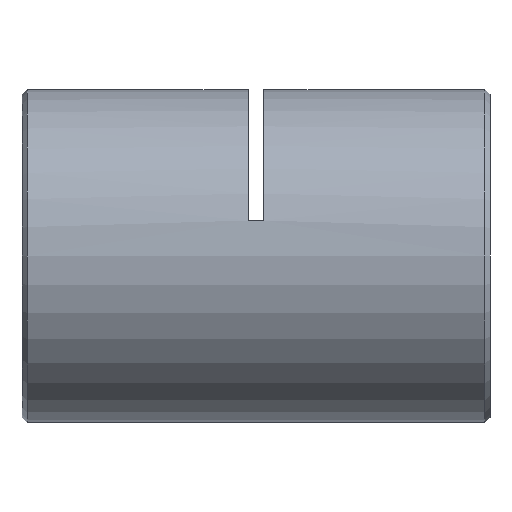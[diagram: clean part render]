
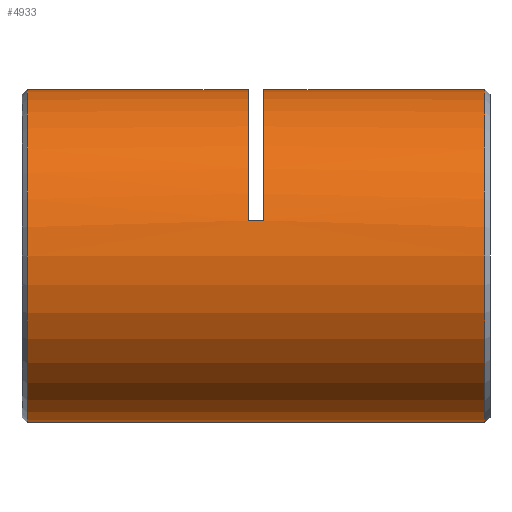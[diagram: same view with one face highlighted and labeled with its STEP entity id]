
A CAD part, left-side view. The second image highlights one B-rep face of the part: STEP entity #4933.
In plain terms, the highlighted cylindrical face has radius 16 mm (diameter 32 mm), a partial arc.
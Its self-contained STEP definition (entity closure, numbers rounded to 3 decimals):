
#7 = ORIENTED_EDGE ( 'NONE', *, *, #5184, .T. ) ;
#74 = CIRCLE ( 'NONE', #5999, 16. ) ;
#173 = ORIENTED_EDGE ( 'NONE', *, *, #1044, .T. ) ;
#270 = DIRECTION ( 'NONE',  ( 0., 1., 0. ) ) ;
#486 = CARTESIAN_POINT ( 'NONE',  ( 0., 44.75, 16. ) ) ;
#668 = DIRECTION ( 'NONE',  ( 0., 1., 0. ) ) ;
#728 = VERTEX_POINT ( 'NONE', #4010 ) ;
#735 = CYLINDRICAL_SURFACE ( 'NONE', #5304, 16. ) ;
#916 = VERTEX_POINT ( 'NONE', #486 ) ;
#954 = EDGE_CURVE ( 'NONE', #916, #728, #2291, .T. ) ;
#1044 = EDGE_CURVE ( 'NONE', #6177, #4236, #3010, .T. ) ;
#1051 = DIRECTION ( 'NONE',  ( 0., 0., -1. ) ) ;
#1291 = CARTESIAN_POINT ( 'NONE',  ( 0., 0.75, 16. ) ) ;
#1356 = EDGE_CURVE ( 'NONE', #4081, #4447, #5569, .T. ) ;
#1424 = DIRECTION ( 'NONE',  ( 0., 0., 1. ) ) ;
#1451 = CARTESIAN_POINT ( 'NONE',  ( 0., 23.5, 0. ) ) ;
#1552 = LINE ( 'NONE', #4472, #3899 ) ;
#1682 = FACE_OUTER_BOUND ( 'NONE', #2258, .T. ) ;
#1712 = DIRECTION ( 'NONE',  ( 0., 1., 0. ) ) ;
#1911 = LINE ( 'NONE', #3822, #4499 ) ;
#1971 = CARTESIAN_POINT ( 'NONE',  ( 0., 23.5, 16. ) ) ;
#2002 = EDGE_CURVE ( 'NONE', #4447, #916, #1552, .T. ) ;
#2065 = CARTESIAN_POINT ( 'NONE',  ( 0., 0.75, -16. ) ) ;
#2154 = CARTESIAN_POINT ( 'NONE',  ( 0., 0.75, 0. ) ) ;
#2258 = EDGE_LOOP ( 'NONE', ( #3754, #173, #7, #6114, #4349, #3714, #4523, #6107 ) ) ;
#2291 = CIRCLE ( 'NONE', #3883, 16. ) ;
#2621 = DIRECTION ( 'NONE',  ( 0., 1., 0. ) ) ;
#2630 = LINE ( 'NONE', #4057, #5500 ) ;
#2894 = DIRECTION ( 'NONE',  ( 0., 0., 1. ) ) ;
#2994 = DIRECTION ( 'NONE',  ( 0., -1., 0. ) ) ;
#3010 = CIRCLE ( 'NONE', #4206, 16. ) ;
#3260 = CARTESIAN_POINT ( 'NONE',  ( 0., 22., 16. ) ) ;
#3440 = DIRECTION ( 'NONE',  ( 0., 1., 0. ) ) ;
#3547 = EDGE_CURVE ( 'NONE', #3610, #4081, #1911, .T. ) ;
#3610 = VERTEX_POINT ( 'NONE', #4537 ) ;
#3688 = DIRECTION ( 'NONE',  ( 0., 1., 0. ) ) ;
#3704 = VECTOR ( 'NONE', #668, 1000. ) ;
#3714 = ORIENTED_EDGE ( 'NONE', *, *, #1356, .T. ) ;
#3754 = ORIENTED_EDGE ( 'NONE', *, *, #4928, .F. ) ;
#3822 = CARTESIAN_POINT ( 'NONE',  ( -15.632, 22.75, 3.413 ) ) ;
#3883 = AXIS2_PLACEMENT_3D ( 'NONE', #5355, #2994, #1051 ) ;
#3891 = EDGE_CURVE ( 'NONE', #3610, #6084, #74, .T. ) ;
#3899 = VECTOR ( 'NONE', #4377, 1000. ) ;
#4010 = CARTESIAN_POINT ( 'NONE',  ( 0., 44.75, -16. ) ) ;
#4057 = CARTESIAN_POINT ( 'NONE',  ( 0., 0., 16. ) ) ;
#4081 = VERTEX_POINT ( 'NONE', #5849 ) ;
#4206 = AXIS2_PLACEMENT_3D ( 'NONE', #2154, #3688, #6074 ) ;
#4236 = VERTEX_POINT ( 'NONE', #1291 ) ;
#4341 = CARTESIAN_POINT ( 'NONE',  ( 0., 22., 0. ) ) ;
#4349 = ORIENTED_EDGE ( 'NONE', *, *, #3547, .T. ) ;
#4377 = DIRECTION ( 'NONE',  ( 0., 1., 0. ) ) ;
#4400 = DIRECTION ( 'NONE',  ( 0., 1., 0. ) ) ;
#4412 = DIRECTION ( 'NONE',  ( 0., 0., 1. ) ) ;
#4447 = VERTEX_POINT ( 'NONE', #1971 ) ;
#4472 = CARTESIAN_POINT ( 'NONE',  ( 0., 0., 16. ) ) ;
#4499 = VECTOR ( 'NONE', #1712, 1000. ) ;
#4523 = ORIENTED_EDGE ( 'NONE', *, *, #2002, .T. ) ;
#4537 = CARTESIAN_POINT ( 'NONE',  ( -15.632, 22., 3.413 ) ) ;
#4928 = EDGE_CURVE ( 'NONE', #6177, #728, #5885, .T. ) ;
#4933 = ADVANCED_FACE ( 'NONE', ( #1682 ), #735, .T. ) ;
#5051 = CARTESIAN_POINT ( 'NONE',  ( 0., 0., -16. ) ) ;
#5184 = EDGE_CURVE ( 'NONE', #4236, #6084, #2630, .T. ) ;
#5304 = AXIS2_PLACEMENT_3D ( 'NONE', #5857, #2621, #4412 ) ;
#5355 = CARTESIAN_POINT ( 'NONE',  ( 0., 44.75, 0. ) ) ;
#5500 = VECTOR ( 'NONE', #270, 1000. ) ;
#5569 = CIRCLE ( 'NONE', #5776, 16. ) ;
#5776 = AXIS2_PLACEMENT_3D ( 'NONE', #1451, #4400, #2894 ) ;
#5849 = CARTESIAN_POINT ( 'NONE',  ( -15.632, 23.5, 3.413 ) ) ;
#5857 = CARTESIAN_POINT ( 'NONE',  ( 0., 0., 0. ) ) ;
#5885 = LINE ( 'NONE', #5051, #3704 ) ;
#5999 = AXIS2_PLACEMENT_3D ( 'NONE', #4341, #3440, #1424 ) ;
#6074 = DIRECTION ( 'NONE',  ( 0., 0., 1. ) ) ;
#6084 = VERTEX_POINT ( 'NONE', #3260 ) ;
#6107 = ORIENTED_EDGE ( 'NONE', *, *, #954, .T. ) ;
#6114 = ORIENTED_EDGE ( 'NONE', *, *, #3891, .F. ) ;
#6177 = VERTEX_POINT ( 'NONE', #2065 ) ;
